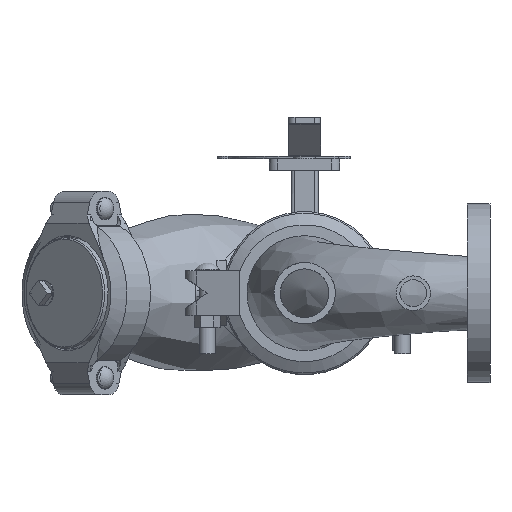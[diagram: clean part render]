
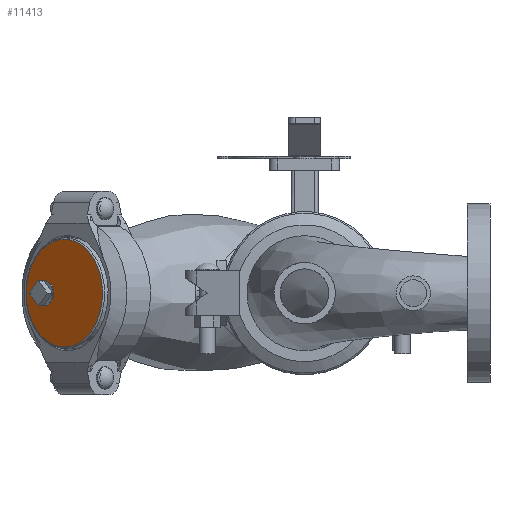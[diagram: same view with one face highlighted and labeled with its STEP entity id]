
A CAD part, front view. The second image highlights one B-rep face of the part: STEP entity #11413.
In plain terms, the highlighted planar face has unit normal (-0.707, -0.707, 0) as drawn and (1, 0, 0) by its records, which use the part's own axes.
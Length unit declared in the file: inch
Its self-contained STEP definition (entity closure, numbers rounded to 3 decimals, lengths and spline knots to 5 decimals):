
#2254=FACE_BOUND('',#3267,.T.);
#2601=FACE_OUTER_BOUND('',#3266,.T.);
#3266=EDGE_LOOP('',(#8373,#8374));
#3267=EDGE_LOOP('',(#8375));
#3932=CIRCLE('',#12576,0.5);
#3940=CIRCLE('',#12587,2.107);
#3941=CIRCLE('',#12588,2.107);
#4770=VERTEX_POINT('',#21592);
#4778=VERTEX_POINT('',#21613);
#4779=VERTEX_POINT('',#21614);
#6070=EDGE_CURVE('',#4770,#4770,#3932,.T.);
#6079=EDGE_CURVE('',#4778,#4779,#3940,.T.);
#6080=EDGE_CURVE('',#4779,#4778,#3941,.T.);
#8373=ORIENTED_EDGE('',*,*,#6079,.T.);
#8374=ORIENTED_EDGE('',*,*,#6080,.T.);
#8375=ORIENTED_EDGE('',*,*,#6070,.T.);
#10318=PLANE('',#12590);
#11413=ADVANCED_FACE('',(#2601,#2254),#10318,.T.);
#12576=AXIS2_PLACEMENT_3D('',#21594,#14754,#14755);
#12587=AXIS2_PLACEMENT_3D('',#21615,#14777,#14778);
#12588=AXIS2_PLACEMENT_3D('',#21616,#14779,#14780);
#12590=AXIS2_PLACEMENT_3D('',#21618,#14783,#14784);
#14754=DIRECTION('center_axis',(-1.,0.,0.));
#14755=DIRECTION('ref_axis',(0.,0.,1.));
#14777=DIRECTION('center_axis',(1.,0.,0.));
#14778=DIRECTION('ref_axis',(0.,0.,-1.));
#14779=DIRECTION('center_axis',(1.,0.,0.));
#14780=DIRECTION('ref_axis',(0.,0.,-1.));
#14783=DIRECTION('center_axis',(1.,0.,0.));
#14784=DIRECTION('ref_axis',(0.,0.,-1.));
#21592=CARTESIAN_POINT('',(1.13,1.1,-0.5));
#21594=CARTESIAN_POINT('Origin',(1.13,1.1,0.));
#21613=CARTESIAN_POINT('',(1.13,2.107,0.));
#21614=CARTESIAN_POINT('',(1.13,0.,2.107));
#21615=CARTESIAN_POINT('Origin',(1.13,0.,0.));
#21616=CARTESIAN_POINT('Origin',(1.13,0.,0.));
#21618=CARTESIAN_POINT('Origin',(1.13,0.,0.));
